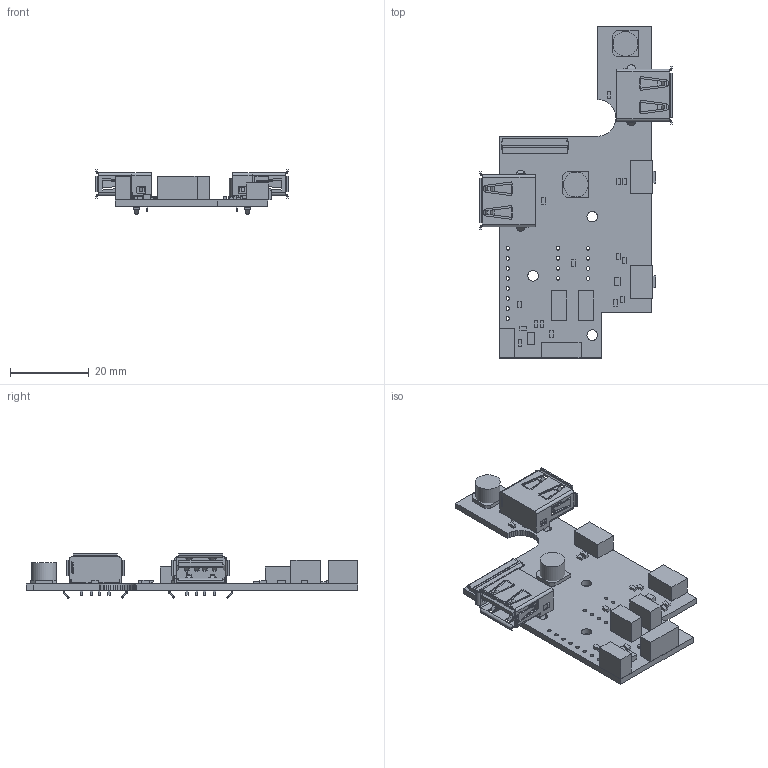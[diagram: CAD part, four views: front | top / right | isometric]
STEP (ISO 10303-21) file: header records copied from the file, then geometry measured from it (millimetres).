
FILE_DESCRIPTION(('Open CASCADE Model'),'2;1');
FILE_NAME('Open CASCADE Shape Model','2014-10-14T18:31:59',('Author'),( 'Open CASCADE'),'Open CASCADE STEP processor 6.2','Open CASCADE 6.2' ,'Unknown');
FILE_SCHEMA(('AUTOMOTIVE_DESIGN { 1 0 10303 214 1 1 1 1 }'));
Length unit declared in the file: millimetre
Products named in the file (56): PCB; Boardlaptop-front-panel-pvt1; R11laptop-front-panel-pvt1; 1232863888; Extruded; R10laptop-front-panel-pvt1; C10laptop-front-panel-pvt1; 1232864144; 1268368488; Cylinder; C11laptop-front-panel-pvt1; C14laptop-front-panel-pvt1; 1232864528; C15laptop-front-panel-pvt1; C16laptop-front-panel-pvt1; C17laptop-front-panel-pvt1; 1232863504; C18laptop-front-panel-pvt1; D12laptop-front-panel-pvt1; 1232864016; D13laptop-front-panel-pvt1; P10laptop-front-panel-pvt1; FH34SRJ-30S-0.5SH; P11laptop-front-panel-pvt1; c-292303-1-e3-3d; P12laptop-front-panel-pvt1; P13laptop-front-panel-pvt1; 1232863632; P15laptop-front-panel-pvt1; P16laptop-front-panel-pvt1; P17laptop-front-panel-pvt1; 1232863120; R12laptop-front-panel-pvt1; R13laptop-front-panel-pvt1; R14laptop-front-panel-pvt1; R15laptop-front-panel-pvt1; R16laptop-front-panel-pvt1; SW10laptop-front-panel-pvt1; 1232861456; 1232861200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
Assembly tree (73 placements, depth 4):
  PCB
    Boardlaptop-front-panel-pvt1
    R11laptop-front-panel-pvt1
      1232863888
        Extruded
    R10laptop-front-panel-pvt1
      1232863888
        Extruded
    C10laptop-front-panel-pvt1
      1232864144
        Extruded
      1268368488
        Cylinder
    C11laptop-front-panel-pvt1
      1232864144
        Extruded
      1268368488
        Cylinder
    C14laptop-front-panel-pvt1
      1232864528
        Extruded
    C15laptop-front-panel-pvt1
      1232864528
        Extruded
    C16laptop-front-panel-pvt1
      1232864528
        Extruded
    C17laptop-front-panel-pvt1
      1232863504
        Extruded
    C18laptop-front-panel-pvt1
      1232864528
        Extruded
    D12laptop-front-panel-pvt1
      1232864016
        Extruded
    D13laptop-front-panel-pvt1
      1232864016
        Extruded
    P10laptop-front-panel-pvt1
      FH34SRJ-30S-0.5SH
    P11laptop-front-panel-pvt1
      c-292303-1-e3-3d
    P12laptop-front-panel-pvt1
      c-292303-1-e3-3d
    P13laptop-front-panel-pvt1
      1232863632
        Extruded
    P15laptop-front-panel-pvt1
      1232863632
        Extruded
    P16laptop-front-panel-pvt1
      1232863632
        Extruded
    P17laptop-front-panel-pvt1
      1232863120
        Extruded
    R12laptop-front-panel-pvt1
      1232863888
        Extruded
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Bounding box: 48.65 x 84.1 x 11.26 mm (x, y, z)
Volume: 6740.2 mm3; surface area: 10184.3 mm2
Topology: 33 solids, 33 shells, 1677 faces, 4431 edges, 2848 vertices
Faces by surface type: plane 1286, cylinder 279, bspline 108, extrusion 4
Full cylindrical faces by diameter (mm): 0.9 x25, 0.92 x8, 1 x4, 1.3 x4, 2.3 x4, 2.7 x3, 6.3 x2
Entity records: 93134 total; most frequent: CARTESIAN_POINT 30223, DIRECTION 11013, VECTOR 7720, LINE 7718, ORIENTED_EDGE 6272, PCURVE 6272, DEFINITIONAL_REPRESENTATION 6272, EDGE_CURVE 3136
